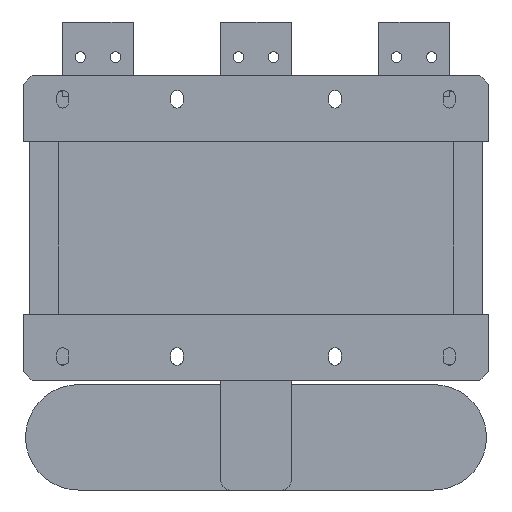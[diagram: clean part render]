
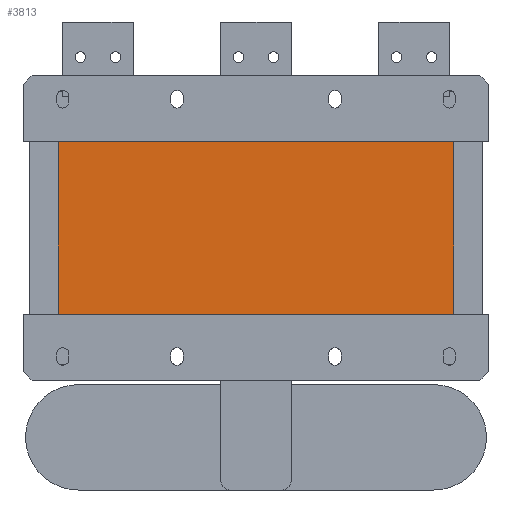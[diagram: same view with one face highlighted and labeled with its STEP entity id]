
A CAD part, front view. The second image highlights one B-rep face of the part: STEP entity #3813.
In plain terms, the highlighted planar face has unit normal (0, -1, 0).
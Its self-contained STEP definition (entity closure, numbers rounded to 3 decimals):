
#317=FACE_OUTER_BOUND('',#557,.T.);
#557=EDGE_LOOP('',(#2839,#2840,#2841,#2842));
#877=LINE('',#5750,#1311);
#881=LINE('',#5758,#1315);
#884=LINE('',#5764,#1318);
#887=LINE('',#5769,#1321);
#1311=VECTOR('',#4650,10.);
#1315=VECTOR('',#4656,10.);
#1318=VECTOR('',#4661,10.);
#1321=VECTOR('',#4666,10.);
#1725=VERTEX_POINT('',#5748);
#1726=VERTEX_POINT('',#5749);
#1729=VERTEX_POINT('',#5757);
#1731=VERTEX_POINT('',#5763);
#2133=EDGE_CURVE('',#1725,#1726,#877,.T.);
#2137=EDGE_CURVE('',#1726,#1729,#881,.T.);
#2140=EDGE_CURVE('',#1729,#1731,#884,.T.);
#2143=EDGE_CURVE('',#1731,#1725,#887,.T.);
#2839=ORIENTED_EDGE('',*,*,#2143,.T.);
#2840=ORIENTED_EDGE('',*,*,#2133,.T.);
#2841=ORIENTED_EDGE('',*,*,#2137,.T.);
#2842=ORIENTED_EDGE('',*,*,#2140,.T.);
#3623=PLANE('',#4114);
#3813=ADVANCED_FACE('',(#317),#3623,.T.);
#4114=AXIS2_PLACEMENT_3D('',#5771,#4668,#4669);
#4650=DIRECTION('',(0.,0.,1.));
#4656=DIRECTION('',(-1.,0.,0.));
#4661=DIRECTION('',(0.,0.,-1.));
#4666=DIRECTION('',(1.,0.,0.));
#4668=DIRECTION('center_axis',(0.,-1.,0.));
#4669=DIRECTION('ref_axis',(0.,0.,-1.));
#5748=CARTESIAN_POINT('',(225.,20.,-98.5));
#5749=CARTESIAN_POINT('',(225.,20.,98.5));
#5750=CARTESIAN_POINT('',(225.,20.,-98.5));
#5757=CARTESIAN_POINT('',(-225.,20.,98.5));
#5758=CARTESIAN_POINT('',(225.,20.,98.5));
#5763=CARTESIAN_POINT('',(-225.,20.,-98.5));
#5764=CARTESIAN_POINT('',(-225.,20.,98.5));
#5769=CARTESIAN_POINT('',(-225.,20.,-98.5));
#5771=CARTESIAN_POINT('Origin',(0.,20.,0.));
